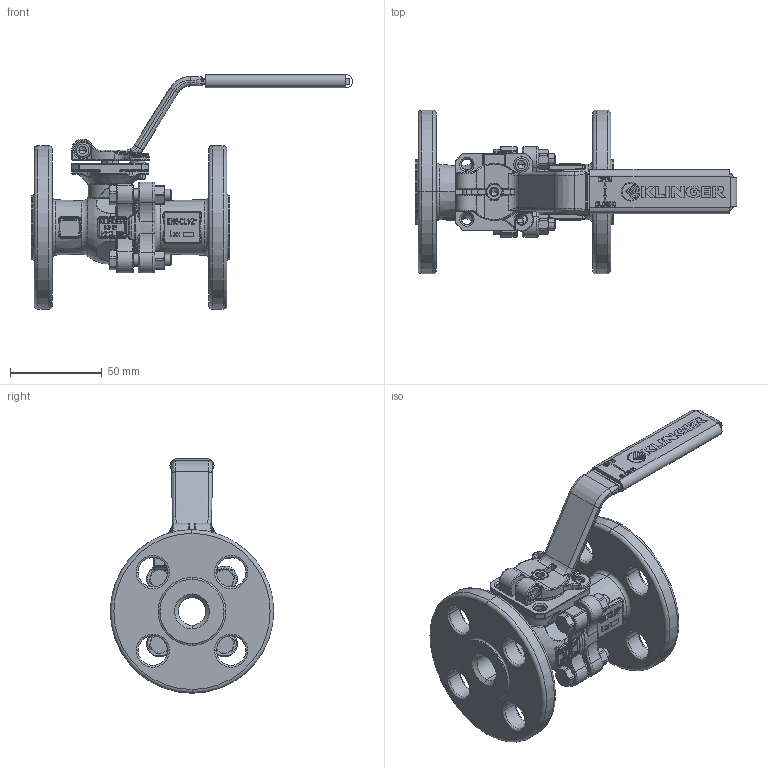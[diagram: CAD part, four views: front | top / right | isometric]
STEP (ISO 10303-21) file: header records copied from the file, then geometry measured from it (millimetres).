
FILE_DESCRIPTION((''),'2;1');
FILE_NAME('KHEFS-12VFS-12C150PKK','2015-08-10T',('mahrhauserh'),('RAND'),'PRO/ENGINEER BY PARAMETRIC TECHNOLOGY CORPORATION, 2013410','PRO/ENGINEER BY PARAMETRIC TECHNOLOGY CORPORATION, 2013410','');
FILE_SCHEMA(('CONFIG_CONTROL_DESIGN'));
Products named in the file (1): KHEFS-12VFS-12C150PKK
Bounding box: 175 x 89 x 127.55 mm (x, y, z)
Volume: 216571 mm3; surface area: 79336.7 mm2
Topology: 1 solids, 1 shells, 3154 faces, 8058 edges, 5020 vertices
Faces by surface type: plane 1712, cylinder 510, bspline 351, torus 330, cone 202, sphere 49
Entity records: 127092 total; most frequent: CARTESIAN_POINT 52482, ORIENTED_EDGE 16088, DIRECTION 14808, EDGE_CURVE 8044, VERTEX_POINT 5020, VECTOR 4990, LINE 4990, AXIS2_PLACEMENT_3D 4909
